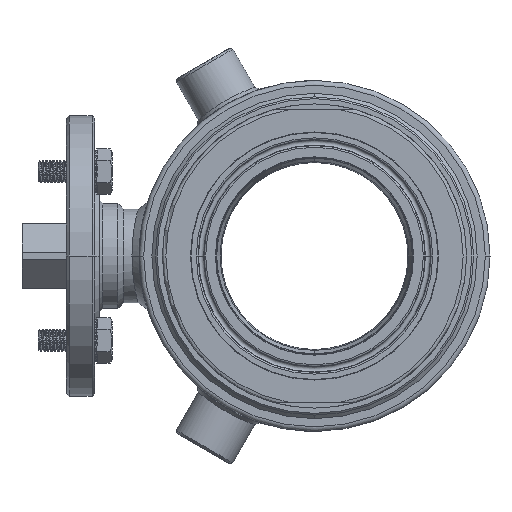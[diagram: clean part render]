
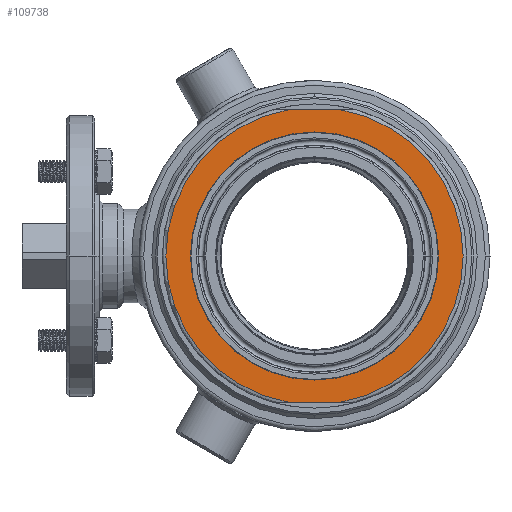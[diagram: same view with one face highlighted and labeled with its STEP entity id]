
A CAD part, left-side view. The second image highlights one B-rep face of the part: STEP entity #109738.
In plain terms, the highlighted planar face has unit normal (-1, 0, 0).
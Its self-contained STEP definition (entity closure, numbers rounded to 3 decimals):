
#5242=CARTESIAN_POINT('',(-65.,0.,0.));
#5243=DIRECTION('',(-1.,0.,0.));
#5244=DIRECTION('',(0.,-1.,0.));
#5245=AXIS2_PLACEMENT_3D('',#5242,#5243,#5244);
#5274=DIRECTION('',(0.,-1.,0.));
#5275=VECTOR('',#5274,22.45);
#5276=CARTESIAN_POINT('',(-65.,11.225,62.5));
#5277=LINE('',#5276,#5275);
#5281=DIRECTION('',(0.,-1.,0.));
#5282=VECTOR('',#5281,22.45);
#5283=CARTESIAN_POINT('',(-65.,11.225,-62.5));
#5284=LINE('',#5283,#5282);
#5325=CARTESIAN_POINT('',(-65.,11.225,62.5));
#5361=CARTESIAN_POINT('',(-65.,0.,0.));
#5362=DIRECTION('',(-1.,0.,0.));
#5363=DIRECTION('',(0.,0.177,0.984));
#5364=AXIS2_PLACEMENT_3D('',#5361,#5362,#5363);
#5369=CARTESIAN_POINT('',(-65.,11.225,-62.5));
#5435=CARTESIAN_POINT('',(-65.,0.,0.));
#5436=DIRECTION('',(-1.,0.,0.));
#5437=DIRECTION('',(0.,-0.177,-0.984));
#5438=AXIS2_PLACEMENT_3D('',#5435,#5436,#5437);
#5443=CARTESIAN_POINT('',(-65.,-11.225,62.5));
#5495=CARTESIAN_POINT('',(-65.,-11.225,-62.5));
#5552=CARTESIAN_POINT('',(-65.,0.,0.));
#5553=DIRECTION('',(-1.,0.,0.));
#5554=DIRECTION('',(0.,1.,0.));
#5555=AXIS2_PLACEMENT_3D('',#5552,#5553,#5554);
#103958=CARTESIAN_POINT('',(-65.,50.,0.));
#103959=CARTESIAN_POINT('',(-65.,-50.,0.));
#103960=VERTEX_POINT('',#103958);
#103961=VERTEX_POINT('',#103959);
#104026=VERTEX_POINT('',#5495);
#104029=VERTEX_POINT('',#5443);
#104034=VERTEX_POINT('',#5369);
#104037=VERTEX_POINT('',#5325);
#109718=CARTESIAN_POINT('',(-65.,0.,0.));
#109719=DIRECTION('',(-1.,0.,0.));
#109720=DIRECTION('',(0.,-1.,0.));
#109721=AXIS2_PLACEMENT_3D('',#109718,#109719,#109720);
#109722=PLANE('',#109721);
#109724=ORIENTED_EDGE('',*,*,#109723,.T.);
#109726=ORIENTED_EDGE('',*,*,#109725,.F.);
#109728=ORIENTED_EDGE('',*,*,#109727,.F.);
#109730=ORIENTED_EDGE('',*,*,#109729,.F.);
#109731=EDGE_LOOP('',(#109724,#109726,#109728,#109730));
#109732=FACE_OUTER_BOUND('',#109731,.F.);
#109733=ORIENTED_EDGE('',*,*,#109708,.T.);
#109735=ORIENTED_EDGE('',*,*,#109734,.T.);
#109736=EDGE_LOOP('',(#109733,#109735));
#109737=FACE_BOUND('',#109736,.F.);
#109738=ADVANCED_FACE('',(#109732,#109737),#109722,.T.);
#5246=CIRCLE('',#5245,50.);
#5365=CIRCLE('',#5364,63.5);
#5439=CIRCLE('',#5438,63.5);
#5556=CIRCLE('',#5555,50.);
#109708=EDGE_CURVE('',#103961,#103960,#5246,.T.);
#109723=EDGE_CURVE('',#104037,#104029,#5277,.T.);
#109725=EDGE_CURVE('',#104026,#104029,#5439,.T.);
#109727=EDGE_CURVE('',#104034,#104026,#5284,.T.);
#109729=EDGE_CURVE('',#104037,#104034,#5365,.T.);
#109734=EDGE_CURVE('',#103960,#103961,#5556,.T.);
